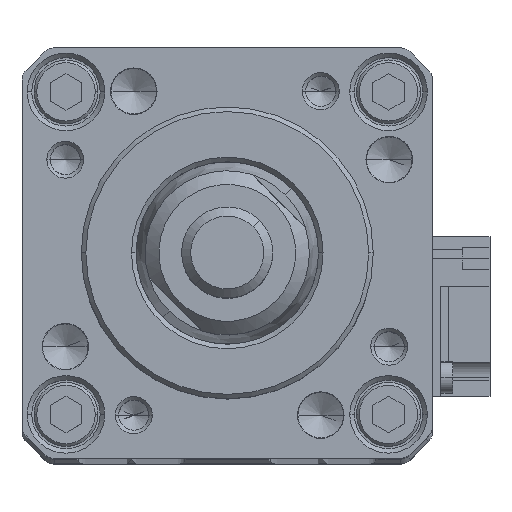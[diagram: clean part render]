
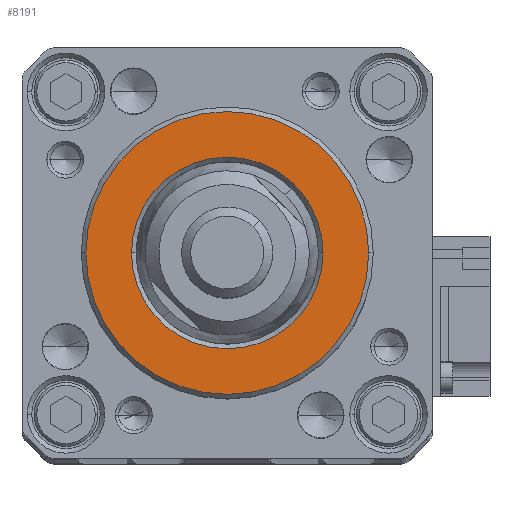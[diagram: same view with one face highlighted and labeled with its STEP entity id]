
A CAD part, top view. The second image highlights one B-rep face of the part: STEP entity #8191.
In plain terms, the highlighted planar face has unit normal (0, 0, 1).
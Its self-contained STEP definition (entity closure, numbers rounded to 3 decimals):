
#730 = CIRCLE ( 'NONE', #13646, 15.5 ) ;
#1263 = AXIS2_PLACEMENT_3D ( 'NONE', #1362, #15867, #3440 ) ;
#1362 = CARTESIAN_POINT ( 'NONE',  ( 0., 0., 357. ) ) ;
#2263 = VERTEX_POINT ( 'NONE', #3325 ) ;
#2551 = CARTESIAN_POINT ( 'NONE',  ( -15.5, 0., 357. ) ) ;
#3278 = EDGE_CURVE ( 'NONE', #26210, #2263, #15060, .T. ) ;
#3325 = CARTESIAN_POINT ( 'NONE',  ( -10.5, 0., 357. ) ) ;
#3440 = DIRECTION ( 'NONE',  ( 1., 0., 0. ) ) ;
#4366 = CARTESIAN_POINT ( 'NONE',  ( 0., 0., 357. ) ) ;
#4816 = EDGE_CURVE ( 'NONE', #2263, #26210, #12057, .T. ) ;
#5233 = AXIS2_PLACEMENT_3D ( 'NONE', #6346, #20799, #8444 ) ;
#6031 = AXIS2_PLACEMENT_3D ( 'NONE', #13041, #23400, #11059 ) ;
#6213 = FACE_BOUND ( 'NONE', #21408, .T. ) ;
#6346 = CARTESIAN_POINT ( 'NONE',  ( 0., 0., 357. ) ) ;
#6473 = DIRECTION ( 'NONE',  ( 1., 0., 0. ) ) ;
#6914 = VERTEX_POINT ( 'NONE', #2551 ) ;
#7283 = EDGE_CURVE ( 'NONE', #6914, #26391, #730, .T. ) ;
#8191 = ADVANCED_FACE ( 'NONE', ( #6213, #22695 ), #8987, .T. ) ;
#8444 = DIRECTION ( 'NONE',  ( 1., 0., 0. ) ) ;
#8987 = PLANE ( 'NONE',  #6031 ) ;
#9924 = ORIENTED_EDGE ( 'NONE', *, *, #3278, .T. ) ;
#9972 = CARTESIAN_POINT ( 'NONE',  ( 0., 0., 357. ) ) ;
#10493 = AXIS2_PLACEMENT_3D ( 'NONE', #4366, #18848, #6473 ) ;
#11059 = DIRECTION ( 'NONE',  ( 1., 0., 0. ) ) ;
#11511 = CARTESIAN_POINT ( 'NONE',  ( 15.5, 0., 357. ) ) ;
#11919 = ORIENTED_EDGE ( 'NONE', *, *, #4816, .T. ) ;
#12057 = CIRCLE ( 'NONE', #10493, 10.5 ) ;
#12060 = DIRECTION ( 'NONE',  ( 1., 0., 0. ) ) ;
#13041 = CARTESIAN_POINT ( 'NONE',  ( 0., 0., 357. ) ) ;
#13290 = ORIENTED_EDGE ( 'NONE', *, *, #7283, .T. ) ;
#13646 = AXIS2_PLACEMENT_3D ( 'NONE', #9972, #24424, #12060 ) ;
#14011 = EDGE_LOOP ( 'NONE', ( #13290, #18503 ) ) ;
#14935 = EDGE_CURVE ( 'NONE', #26391, #6914, #16539, .T. ) ;
#15060 = CIRCLE ( 'NONE', #5233, 10.5 ) ;
#15867 = DIRECTION ( 'NONE',  ( 0., 0., 1. ) ) ;
#16539 = CIRCLE ( 'NONE', #1263, 15.5 ) ;
#17875 = CARTESIAN_POINT ( 'NONE',  ( 10.5, 0., 357. ) ) ;
#18503 = ORIENTED_EDGE ( 'NONE', *, *, #14935, .T. ) ;
#18848 = DIRECTION ( 'NONE',  ( 0., 0., -1. ) ) ;
#20799 = DIRECTION ( 'NONE',  ( 0., 0., -1. ) ) ;
#21408 = EDGE_LOOP ( 'NONE', ( #9924, #11919 ) ) ;
#22695 = FACE_OUTER_BOUND ( 'NONE', #14011, .T. ) ;
#23400 = DIRECTION ( 'NONE',  ( 0., 0., 1. ) ) ;
#24424 = DIRECTION ( 'NONE',  ( 0., 0., 1. ) ) ;
#26210 = VERTEX_POINT ( 'NONE', #17875 ) ;
#26391 = VERTEX_POINT ( 'NONE', #11511 ) ;
